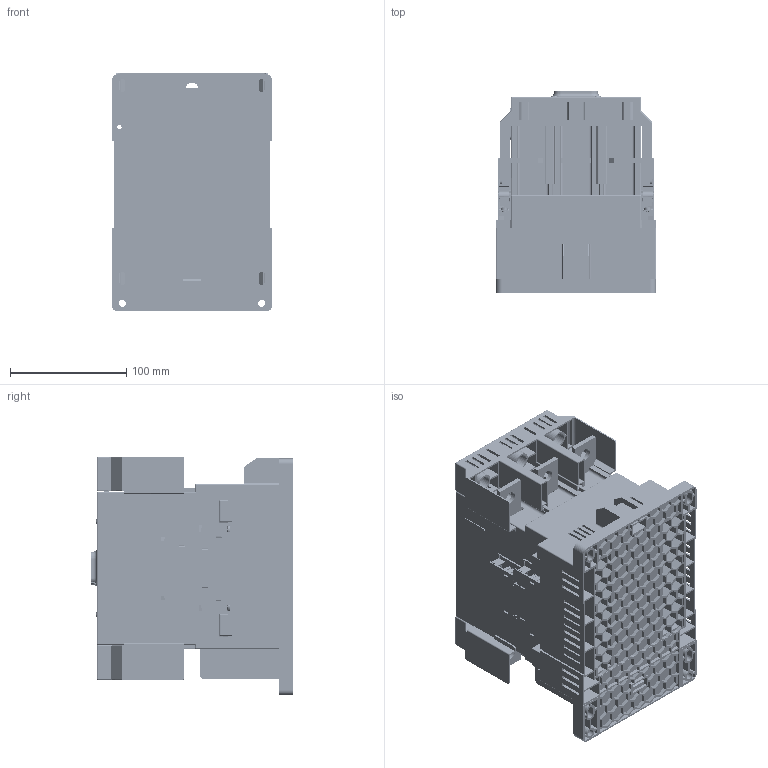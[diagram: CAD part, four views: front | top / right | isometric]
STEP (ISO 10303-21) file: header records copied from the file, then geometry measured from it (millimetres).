
FILE_DESCRIPTION(/* description */ (''),/* implementation_level */ '2;1');
FILE_NAME(/* name */ 'HGC265AF_stp.stp',/* time_stamp */ '2017-09-21T13:35:52+09:00',/* author */ (''),/* organization */ (''),/* preprocessor_version */ 'ST-DEVELOPER v15',/* originating_system */ 'SIEMENS PLM Software NX 9.0',/* authorisation */ '');
FILE_SCHEMA (('CONFIG_CONTROL_DESIGN'));
Products named in the file (1): HGC265AF_stp
Bounding box: 138 x 174.25 x 205.65 mm (x, y, z)
Volume: 2641552 mm3; surface area: 815636.3 mm2
Topology: 62 solids, 113 shells, 9700 faces, 26338 edges, 17159 vertices
Faces by surface type: plane 7320, cylinder 1834, torus 249, bspline 92, extrusion 79, cone 72, sphere 54
Full cylindrical faces by diameter (mm): 3.8 x4, 4 x7, 4.1 x4, 4.3 x1, 6 x4, 7.8 x4, 8 x7, 9 x4
Entity records: 318123 total; most frequent: CARTESIAN_POINT 74022, ORIENTED_EDGE 52250, DIRECTION 47523, EDGE_CURVE 26125, VECTOR 21527, LINE 21448, VERTEX_POINT 17134, AXIS2_PLACEMENT_3D 12998
